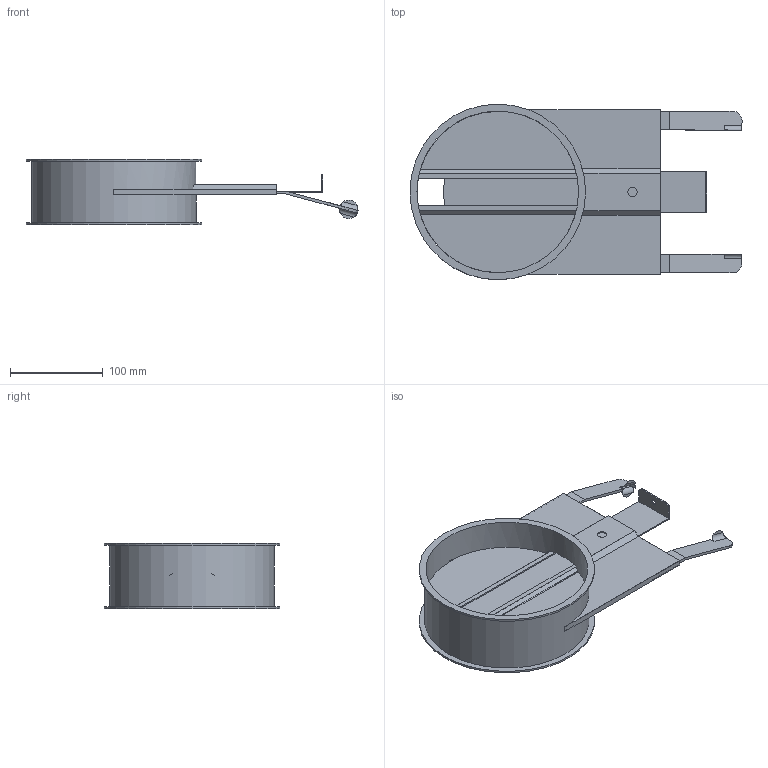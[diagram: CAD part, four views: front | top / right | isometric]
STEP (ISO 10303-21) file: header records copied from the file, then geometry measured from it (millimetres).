
FILE_DESCRIPTION((''),'2;1');
FILE_NAME('U:\Wolfgang\Marcel-3D\fertig\Kapitel 9\1721079.stp','2011-10-11T12:55:06',('iwienholt'),(''),'Autodesk Inventor 2010','Autodesk Inventor 2010','');
FILE_SCHEMA(('AUTOMOTIVE_DESIGN { 1 0 10303 214 1 1 1 1 }'));
Length unit declared in the file: millimetre
Products named in the file (4): 1721079; Dosierzunge DN170; Rohr mit Führung DN175; Schieberblech DN170
Assembly tree (3 placements, depth 2):
  1721079
    Dosierzunge DN170
    Rohr mit Führung DN175
    Schieberblech DN170
Bounding box: 357.37 x 189 x 70 mm (x, y, z)
Volume: 262072 mm3; surface area: 293925 mm2
Topology: 3 solids, 3 shells, 87 faces, 241 edges, 161 vertices
Faces by surface type: plane 59, cylinder 20, bspline 8
Full cylindrical faces by diameter (mm): 20 x2, 174 x1, 177 x1, 189 x2
Entity records: 2947 total; most frequent: CARTESIAN_POINT 634, ORIENTED_EDGE 458, DIRECTION 455, EDGE_CURVE 229, VECTOR 157, LINE 157, VERTEX_POINT 156, AXIS2_PLACEMENT_3D 149
